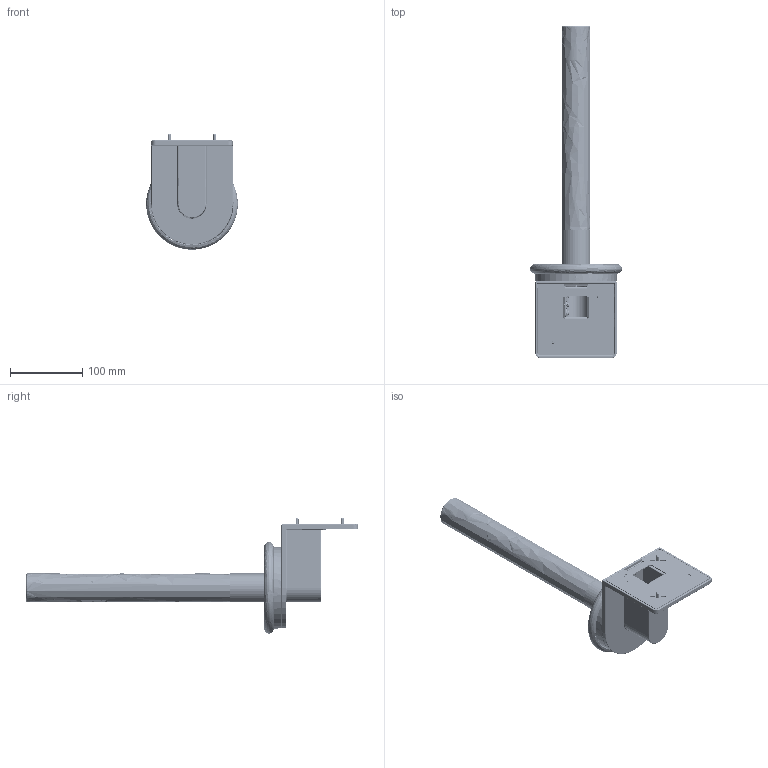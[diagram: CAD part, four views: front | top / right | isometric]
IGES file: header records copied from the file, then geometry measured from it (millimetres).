
Start section: SolidWorks IGES file using analytic representation for surfaces
Global section: file name: C:\Users\ana.pascual\Desktop\Sylvestrina_Wall_Lamp_SC.IGS; native system: SolidWorks 2021; preprocessor: SolidWorks 2021; author: ana.pascual; date: 220923.092749; units: millimetre
Bounding box: 126.97 x 460 x 159.83 mm (x, y, z)
Surface area: 356220.7 mm2 (no closed solid volume)
Topology: 0 solids, 0 shells, 5595 faces, 48078 edges, 47891 vertices
Faces by surface type: bspline 3249, revolution 2346
